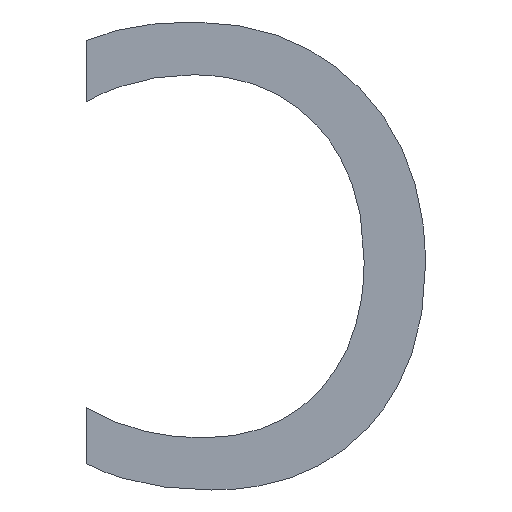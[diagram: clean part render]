
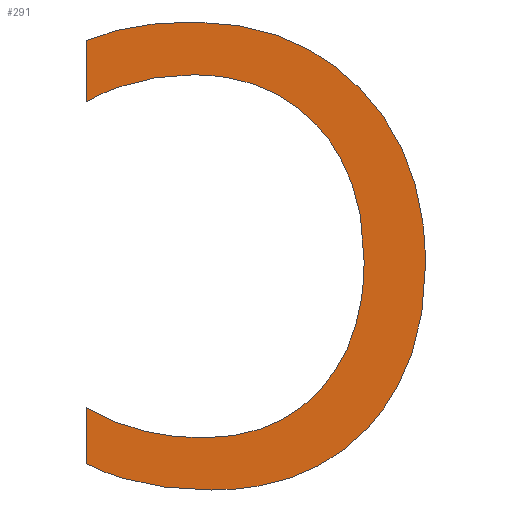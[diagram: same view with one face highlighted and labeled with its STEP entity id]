
A CAD part, left-side view. The second image highlights one B-rep face of the part: STEP entity #291.
In plain terms, the highlighted planar face has unit normal (-1, 0, 0).
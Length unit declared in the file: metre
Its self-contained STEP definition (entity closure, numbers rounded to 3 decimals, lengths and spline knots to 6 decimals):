
#24=LINE('',#481,#42);
#25=LINE('',#513,#43);
#42=VECTOR('',#424,1.);
#43=VECTOR('',#425,1.);
#60=ORIENTED_EDGE('',*,*,#144,.F.);
#61=ORIENTED_EDGE('',*,*,#145,.F.);
#62=ORIENTED_EDGE('',*,*,#146,.F.);
#63=ORIENTED_EDGE('',*,*,#147,.F.);
#64=ORIENTED_EDGE('',*,*,#148,.F.);
#65=ORIENTED_EDGE('',*,*,#149,.F.);
#66=ORIENTED_EDGE('',*,*,#150,.F.);
#67=ORIENTED_EDGE('',*,*,#151,.F.);
#68=ORIENTED_EDGE('',*,*,#152,.F.);
#69=ORIENTED_EDGE('',*,*,#153,.F.);
#70=ORIENTED_EDGE('',*,*,#154,.F.);
#71=ORIENTED_EDGE('',*,*,#155,.F.);
#72=ORIENTED_EDGE('',*,*,#156,.F.);
#73=ORIENTED_EDGE('',*,*,#157,.F.);
#144=EDGE_CURVE('',#186,#187,#214,.T.);
#145=EDGE_CURVE('',#188,#186,#215,.T.);
#146=EDGE_CURVE('',#189,#188,#216,.T.);
#147=EDGE_CURVE('',#190,#189,#217,.T.);
#148=EDGE_CURVE('',#191,#190,#218,.T.);
#149=EDGE_CURVE('',#192,#191,#219,.T.);
#150=EDGE_CURVE('',#193,#192,#24,.T.);
#151=EDGE_CURVE('',#194,#193,#220,.T.);
#152=EDGE_CURVE('',#195,#194,#221,.T.);
#153=EDGE_CURVE('',#196,#195,#222,.T.);
#154=EDGE_CURVE('',#197,#196,#223,.T.);
#155=EDGE_CURVE('',#198,#197,#224,.T.);
#156=EDGE_CURVE('',#199,#198,#225,.T.);
#157=EDGE_CURVE('',#187,#199,#25,.T.);
#186=VERTEX_POINT('',#454);
#187=VERTEX_POINT('',#455);
#188=VERTEX_POINT('',#460);
#189=VERTEX_POINT('',#465);
#190=VERTEX_POINT('',#470);
#191=VERTEX_POINT('',#475);
#192=VERTEX_POINT('',#480);
#193=VERTEX_POINT('',#482);
#194=VERTEX_POINT('',#487);
#195=VERTEX_POINT('',#492);
#196=VERTEX_POINT('',#497);
#197=VERTEX_POINT('',#502);
#198=VERTEX_POINT('',#507);
#199=VERTEX_POINT('',#512);
#214=B_SPLINE_CURVE_WITH_KNOTS('',3,(#450,#451,#452,#453),.UNSPECIFIED.,
 .F.,.F.,(4,4),(0.,1.),.UNSPECIFIED.);
#215=B_SPLINE_CURVE_WITH_KNOTS('',3,(#456,#457,#458,#459),.UNSPECIFIED.,
 .F.,.F.,(4,4),(1.,2.),.UNSPECIFIED.);
#216=B_SPLINE_CURVE_WITH_KNOTS('',3,(#461,#462,#463,#464),.UNSPECIFIED.,
 .F.,.F.,(4,4),(2.,3.),.UNSPECIFIED.);
#217=B_SPLINE_CURVE_WITH_KNOTS('',3,(#466,#467,#468,#469),.UNSPECIFIED.,
 .F.,.F.,(4,4),(3.,4.),.UNSPECIFIED.);
#218=B_SPLINE_CURVE_WITH_KNOTS('',3,(#471,#472,#473,#474),.UNSPECIFIED.,
 .F.,.F.,(4,4),(4.,5.),.UNSPECIFIED.);
#219=B_SPLINE_CURVE_WITH_KNOTS('',3,(#476,#477,#478,#479),.UNSPECIFIED.,
 .F.,.F.,(4,4),(5.,6.),.UNSPECIFIED.);
#220=B_SPLINE_CURVE_WITH_KNOTS('',3,(#483,#484,#485,#486),.UNSPECIFIED.,
 .F.,.F.,(4,4),(7.,8.),.UNSPECIFIED.);
#221=B_SPLINE_CURVE_WITH_KNOTS('',3,(#488,#489,#490,#491),.UNSPECIFIED.,
 .F.,.F.,(4,4),(8.,9.),.UNSPECIFIED.);
#222=B_SPLINE_CURVE_WITH_KNOTS('',3,(#493,#494,#495,#496),.UNSPECIFIED.,
 .F.,.F.,(4,4),(9.,10.),.UNSPECIFIED.);
#223=B_SPLINE_CURVE_WITH_KNOTS('',3,(#498,#499,#500,#501),.UNSPECIFIED.,
 .F.,.F.,(4,4),(10.,11.),.UNSPECIFIED.);
#224=B_SPLINE_CURVE_WITH_KNOTS('',3,(#503,#504,#505,#506),.UNSPECIFIED.,
 .F.,.F.,(4,4),(11.,12.),.UNSPECIFIED.);
#225=B_SPLINE_CURVE_WITH_KNOTS('',3,(#508,#509,#510,#511),.UNSPECIFIED.,
 .F.,.F.,(4,4),(12.,13.),.UNSPECIFIED.);
#238=EDGE_LOOP('',(#60,#61,#62,#63,#64,#65,#66,#67,#68,#69,#70,#71,#72,
#73));
#254=FACE_BOUND('',#238,.T.);
#270=PLANE('',#416);
#291=ADVANCED_FACE('',(#254),#270,.F.);
#416=AXIS2_PLACEMENT_3D('',#449,#422,#423);
#422=DIRECTION('',(1.,0.,0.));
#423=DIRECTION('',(0.,0.,-1.));
#424=DIRECTION('',(0.,0.,1.));
#425=DIRECTION('',(0.,0.,1.));
#449=CARTESIAN_POINT('',(-0.056786,-0.011915,0.013512));
#450=CARTESIAN_POINT('',(-0.056786,-0.011977,0.013506));
#451=CARTESIAN_POINT('',(-0.056786,-0.011932,0.013506));
#452=CARTESIAN_POINT('',(-0.056786,-0.011895,0.013514));
#453=CARTESIAN_POINT('',(-0.056786,-0.011865,0.013529));
#454=CARTESIAN_POINT('',(-0.056786,-0.011977,0.013506));
#455=CARTESIAN_POINT('',(-0.056786,-0.011865,0.013529));
#456=CARTESIAN_POINT('',(-0.056786,-0.012117,0.013561));
#457=CARTESIAN_POINT('',(-0.056786,-0.012082,0.013524));
#458=CARTESIAN_POINT('',(-0.056786,-0.012036,0.013506));
#459=CARTESIAN_POINT('',(-0.056786,-0.011977,0.013506));
#460=CARTESIAN_POINT('',(-0.056786,-0.012117,0.013561));
#461=CARTESIAN_POINT('',(-0.056786,-0.012169,0.013708));
#462=CARTESIAN_POINT('',(-0.056786,-0.012169,0.013647));
#463=CARTESIAN_POINT('',(-0.056786,-0.012152,0.013598));
#464=CARTESIAN_POINT('',(-0.056786,-0.012117,0.013561));
#465=CARTESIAN_POINT('',(-0.056786,-0.012169,0.013708));
#466=CARTESIAN_POINT('',(-0.056786,-0.012111,0.013866));
#467=CARTESIAN_POINT('',(-0.056786,-0.01215,0.013826));
#468=CARTESIAN_POINT('',(-0.056786,-0.012169,0.013774));
#469=CARTESIAN_POINT('',(-0.056786,-0.012169,0.013708));
#470=CARTESIAN_POINT('',(-0.056786,-0.012111,0.013866));
#471=CARTESIAN_POINT('',(-0.056786,-0.011961,0.013926));
#472=CARTESIAN_POINT('',(-0.056786,-0.012022,0.013926));
#473=CARTESIAN_POINT('',(-0.056786,-0.012071,0.013906));
#474=CARTESIAN_POINT('',(-0.056786,-0.012111,0.013866));
#475=CARTESIAN_POINT('',(-0.056786,-0.011961,0.013926));
#476=CARTESIAN_POINT('',(-0.056786,-0.011865,0.01391));
#477=CARTESIAN_POINT('',(-0.056786,-0.01189,0.013921));
#478=CARTESIAN_POINT('',(-0.056786,-0.011922,0.013926));
#479=CARTESIAN_POINT('',(-0.056786,-0.011961,0.013926));
#480=CARTESIAN_POINT('',(-0.056786,-0.011865,0.01391));
#481=CARTESIAN_POINT('',(-0.056786,-0.011865,0.01391));
#482=CARTESIAN_POINT('',(-0.056786,-0.011865,0.013855));
#483=CARTESIAN_POINT('',(-0.056786,-0.011961,0.013879));
#484=CARTESIAN_POINT('',(-0.056786,-0.011926,0.013879));
#485=CARTESIAN_POINT('',(-0.056786,-0.011894,0.013871));
#486=CARTESIAN_POINT('',(-0.056786,-0.011865,0.013855));
#487=CARTESIAN_POINT('',(-0.056786,-0.011961,0.013879));
#488=CARTESIAN_POINT('',(-0.056786,-0.012072,0.013834));
#489=CARTESIAN_POINT('',(-0.056786,-0.012043,0.013864));
#490=CARTESIAN_POINT('',(-0.056786,-0.012006,0.013879));
#491=CARTESIAN_POINT('',(-0.056786,-0.011961,0.013879));
#492=CARTESIAN_POINT('',(-0.056786,-0.012072,0.013834));
#493=CARTESIAN_POINT('',(-0.056786,-0.012114,0.013711));
#494=CARTESIAN_POINT('',(-0.056786,-0.012114,0.013763));
#495=CARTESIAN_POINT('',(-0.056786,-0.0121,0.013803));
#496=CARTESIAN_POINT('',(-0.056786,-0.012072,0.013834));
#497=CARTESIAN_POINT('',(-0.056786,-0.012114,0.013711));
#498=CARTESIAN_POINT('',(-0.056786,-0.012074,0.013595));
#499=CARTESIAN_POINT('',(-0.056786,-0.012101,0.013624));
#500=CARTESIAN_POINT('',(-0.056786,-0.012114,0.013663));
#501=CARTESIAN_POINT('',(-0.056786,-0.012114,0.013711));
#502=CARTESIAN_POINT('',(-0.056786,-0.012074,0.013595));
#503=CARTESIAN_POINT('',(-0.056786,-0.01197,0.013552));
#504=CARTESIAN_POINT('',(-0.056786,-0.012013,0.013552));
#505=CARTESIAN_POINT('',(-0.056786,-0.012048,0.013567));
#506=CARTESIAN_POINT('',(-0.056786,-0.012074,0.013595));
#507=CARTESIAN_POINT('',(-0.056786,-0.01197,0.013552));
#508=CARTESIAN_POINT('',(-0.056786,-0.011865,0.01358));
#509=CARTESIAN_POINT('',(-0.056786,-0.011895,0.013562));
#510=CARTESIAN_POINT('',(-0.056786,-0.01193,0.013552));
#511=CARTESIAN_POINT('',(-0.056786,-0.01197,0.013552));
#512=CARTESIAN_POINT('',(-0.056786,-0.011865,0.01358));
#513=CARTESIAN_POINT('',(-0.056786,-0.011865,0.01358));
